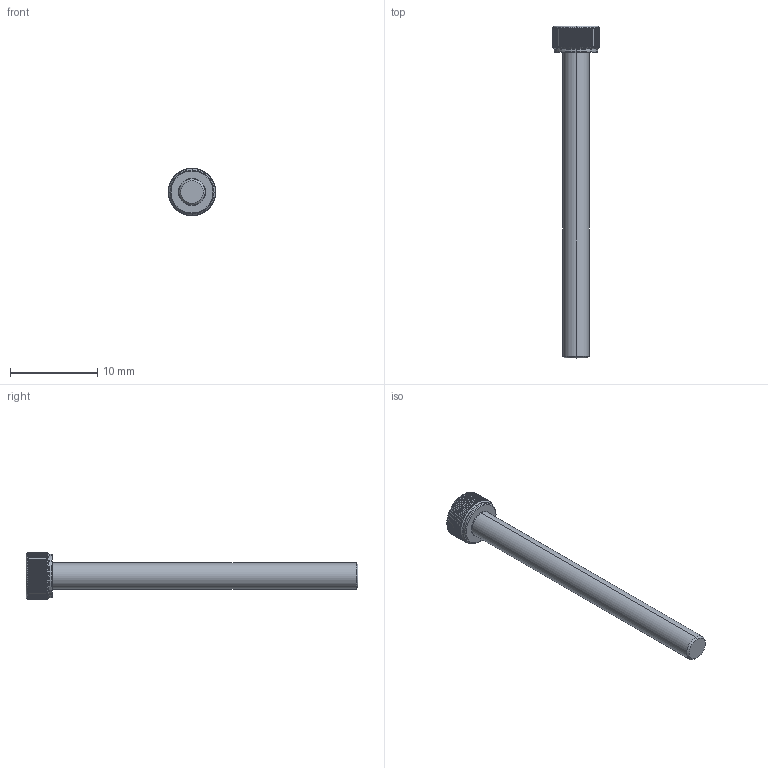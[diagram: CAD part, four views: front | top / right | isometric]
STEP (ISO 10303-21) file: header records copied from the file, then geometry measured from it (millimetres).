
FILE_DESCRIPTION (( 'STEP AP203' ), '1' );
FILE_NAME ('LGDT-304-M3x35.STEP', '2026-08-08T10:26:56', ( '' ), ( '' ), 'SwSTEP 2.0', 'SolidWorks 2020', '' );
FILE_SCHEMA (( 'CONFIG_CONTROL_DESIGN' ));
Length unit declared in the file: millimetre
Products named in the file (1): LGDT-304-M3x35
Bounding box: 5.4 x 38 x 5.4 mm (x, y, z)
Volume: 305.1 mm3; surface area: 433.6 mm2
Topology: 1 solids, 1 shells, 204 faces, 576 edges, 376 vertices
Faces by surface type: cylinder 175, cone 11, plane 10, torus 8
Entity records: 10019 total; most frequent: CARTESIAN_POINT 4860, ORIENTED_EDGE 1152, DIRECTION 988, EDGE_CURVE 576, AXIS2_PLACEMENT_3D 398, VERTEX_POINT 376, EDGE_LOOP 206, FACE_OUTER_BOUND 204
